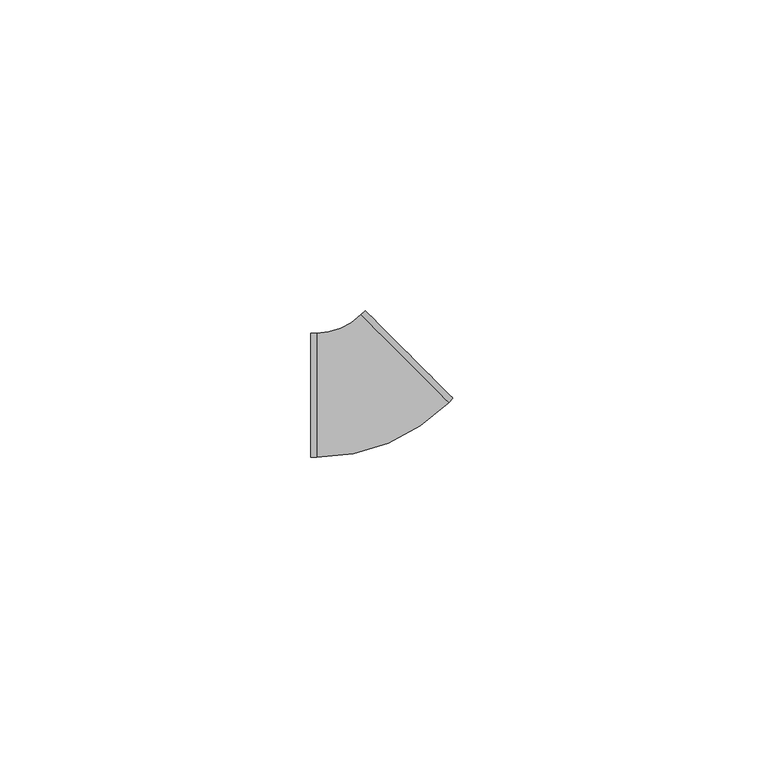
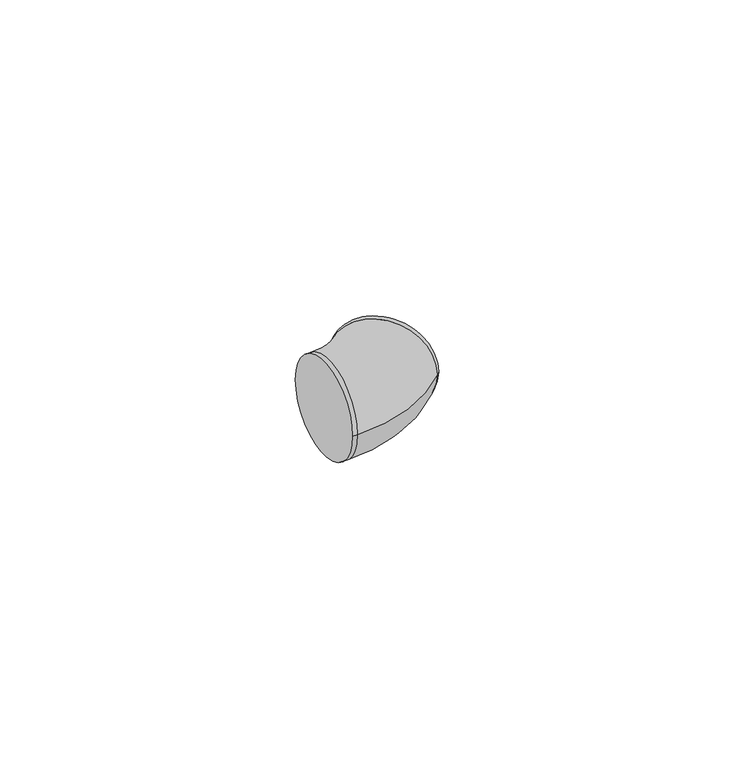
"""IFC4 building model written with IfcOpenShell, lengths in millimetres: cable carrier fitting geometry, ADSK_Поворот_Минимальный размер : Неспецифицируемый."""

from ifc_helpers import new_model, si_unit, point, frame, origin, place, context, project, spatial, circle_curve, ellipse_curve, trimmed, source, transform, mapped, element, save
from ifc_brep_helpers import plane_surface, cylinder_surface, revolved_surface, advanced_brep


def cable_carrier_fitting_42b93bf5(model_context):
    return source(origin(), model_context, "Body", "AdvancedBrep", [
        advanced_brep(
        [(-9.286961, -10.0, 0.0), (-9.286961, 10.0, 0.0), (-8.286961, -10.0, 0.0), (-8.286961, 10.0, 0.0), (-1.2142701, 12.9305557, 0.0), (12.9311119, -1.2083328, 0.0), (13.6380563, -0.5010637, 0.0), (-0.5073256, 13.6378248, 0.0)],
        [
            (0, 1, circle_curve(frame((-9.286961, 0.0, 0.0), z_axis=(-1.0, -4.92260399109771e-12, 0.0), x_axis=(-4.92260399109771e-12, 1.0, 0.0)), 10.0)),
            (1, 0, circle_curve(frame((-9.286961, 0.0, 0.0), z_axis=(-1.0, -4.92260399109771e-12, 0.0), x_axis=(-4.92260399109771e-12, 1.0, 0.0)), 10.0)),
            (0, 2),
            (2, 3, circle_curve(frame((-8.286961, 0.0, 0.0), z_axis=(-1.0, -4.92260399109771e-12, 0.0), x_axis=(-4.92260399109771e-12, 1.0, 0.0)), 10.0)),
            (3, 1),
            (3, 2, circle_curve(frame((-8.286961, 0.0, 0.0), z_axis=(-1.0, -4.92260399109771e-12, 0.0), x_axis=(-4.92260399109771e-12, 1.0, 0.0)), 10.0)),
            (4, 3, circle_curve(frame((-8.286961, 20.0, 0.0), z_axis=(0.0, 0.0, -1.0), x_axis=(0.0, -1.0, 0.0)), 10.0)),
            (2, 5, circle_curve(frame((-8.286961, 20.0, 0.0), z_axis=(0.0, 0.0, 1.0), x_axis=(0.0, -1.0, 0.0)), 30.0)),
            (5, 4, circle_curve(frame((5.8584209, 5.8611114, 0.0), z_axis=(-0.7069444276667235, -0.7072690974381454, 0.0), x_axis=(-0.7072690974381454, 0.7069444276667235, 0.0)), 10.0)),
            (4, 5, circle_curve(frame((5.8584209, 5.8611114, 0.0), z_axis=(-0.7069444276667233, -0.7072690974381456, 0.0), x_axis=(-0.7072690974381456, 0.7069444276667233, 0.0)), 10.0)),
            (6, 7, circle_curve(frame((6.5653653, 6.5683805, 0.0), z_axis=(0.7069444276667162, 0.7072690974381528, 0.0), x_axis=(-0.7072690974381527, 0.7069444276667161, 0.0)), 10.0)),
            (7, 6, circle_curve(frame((6.5653653, 6.5683805, 0.0), z_axis=(0.7069444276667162, 0.7072690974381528, 0.0), x_axis=(-0.7072690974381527, 0.7069444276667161, 0.0)), 10.0)),
            (5, 6),
            (7, 4),
        ],
        [
            plane_surface(frame((-9.286961, 0.0, 0.0), z_axis=(-1.0, -4.92260399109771e-12, 0.0), x_axis=(0.0, 0.0, 1.0))),
            cylinder_surface(frame((-9.286961, 0.0, 0.0), z_axis=(-1.0, -4.92260399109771e-12, 0.0), x_axis=(-4.92260399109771e-12, 1.0, 0.0)), 10.0),
            revolved_surface(trimmed(ellipse_curve(frame((-8.286961, 0.0, 0.0), z_axis=(-1.0, 0.0, 0.0), x_axis=(0.0, 1.0, 0.0)), 10.0, 10.0), [point((-8.286961, -10.0, 0.0))], [point((-8.286961, 10.0, 0.0))], True, "CARTESIAN"), (-8.286961, 20.0, 0.0), (0.0, 0.0, 1.0)),
            revolved_surface(trimmed(ellipse_curve(frame((-8.286961, 0.0, 0.0), z_axis=(-1.0, 0.0, 0.0), x_axis=(0.0, 1.0, 0.0)), 10.0, 10.0), [point((-8.286961, 10.0, 0.0))], [point((-8.286961, -10.0, 0.0))], True, "CARTESIAN"), (-8.286961, 20.0, 0.0), (0.0, 0.0, 1.0)),
            plane_surface(frame((6.5653653, 6.5683805, 0.0), z_axis=(0.7069444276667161, 0.7072690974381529, 0.0), x_axis=(0.0, 0.0, 1.0))),
            cylinder_surface(frame((5.8584209, 5.8611114, 0.0), z_axis=(-0.7069444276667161, -0.7072690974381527, 0.0), x_axis=(-0.7072690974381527, 0.7069444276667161, 0.0)), 10.0),
        ],
        [
            (0, [[1, 2]]),
            (1, [[-1, 3, 4, 5]]),
            (1, [[-2, -5, 6, -3]]),
            (2, [[7, -4, 8, 9]]),
            (3, [[-8, -6, -7, 10]]),
            (4, [[11, 12]]),
            (5, [[-9, 13, -12, 14]]),
            (5, [[-10, -14, -11, -13]]),
        ],
    ),
    ])


if __name__ == "__main__":
    model = new_model("IFC4")
    model_context = context("Model", 3, world=origin())
    ifc_project = project(units=[si_unit("LENGTHUNIT", "METRE", prefix="MILLI")], contexts=[model_context])
    site = spatial("IfcSite", under=ifc_project)
    building = spatial("IfcBuilding", under=site)
    placement = place(None, origin())
    cable_carrier_fitting_shape = cable_carrier_fitting_42b93bf5(model_context)
    element("IfcCableCarrierFitting", 1, ObjectType="ADSK_Поворот_Минимальный размер : Неспецифицируемый", at=placement, inside=building, context=model_context, shape_type="MappedRepresentation", body=[
        mapped(cable_carrier_fitting_shape, transform((0.0, 0.0, 0.0), x_axis=(1.0, 0.0, 0.0), y_axis=(0.0, 1.0, 0.0), z_axis=(0.0, 0.0, 1.0))),
    ])
    save(model, "model.ifc")
